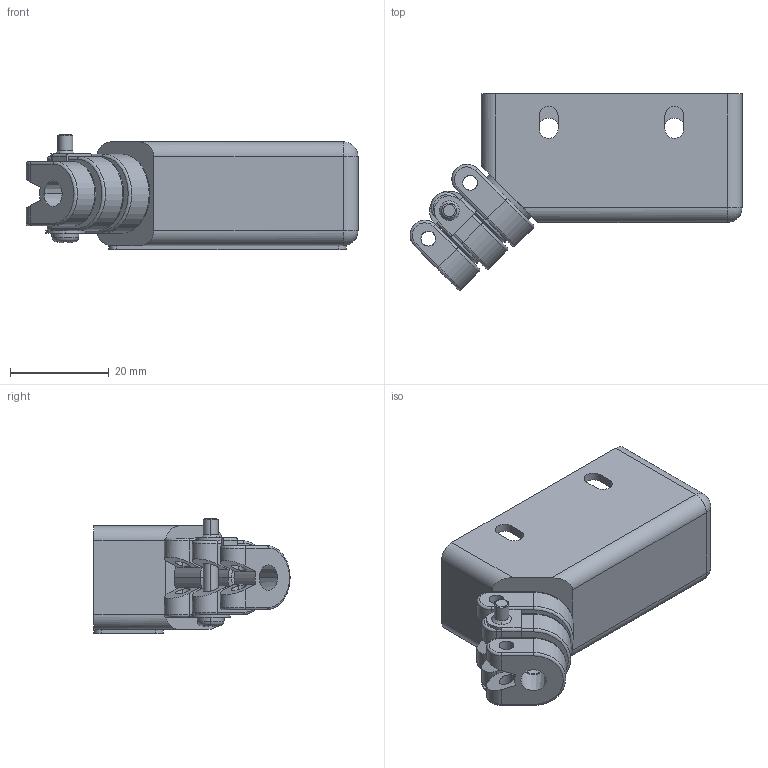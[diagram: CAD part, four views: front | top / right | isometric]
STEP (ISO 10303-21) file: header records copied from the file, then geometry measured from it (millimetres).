
FILE_DESCRIPTION(('Creo Elements/Direct Modeling STEP Export'),'2;1');
FILE_NAME('OM-1_NEW.stp','2013-11-20T14:07:15',(''),(''),'Creo Elements/Direct Modeling STEP processor for AP214 (Solid Model)','Creo Elements/Direct Modeling 18.1B 29-Sep-2012 (C) Parametric Technology GmbH','');
FILE_SCHEMA(('AUTOMOTIVE_DESIGN { 1 0 10303 214 1 1 1 1 }'));
Length unit declared in the file: millimetre
Products named in the file (6): LS金具; OM-1_本体; ワッシャー; ねじ; プレスナット; OM-1
Assembly tree (5 placements, depth 2):
  OM-1
    プレスナット
    ねじ
    ワッシャー
    OM-1_本体
    LS金具
Bounding box: 67.17 x 39.69 x 23.3 mm (x, y, z)
Volume: 9982.9 mm3; surface area: 12856.8 mm2
Topology: 5 solids, 5 shells, 232 faces, 589 edges, 368 vertices
Faces by surface type: cylinder 99, plane 89, torus 22, cone 18, sphere 4
Entity records: 6875 total; most frequent: DIRECTION 1178, ORIENTED_EDGE 1174, CARTESIAN_POINT 1155, EDGE_CURVE 587, AXIS2_PLACEMENT_3D 434, VERTEX_POINT 368, VECTOR 310, LINE 310
